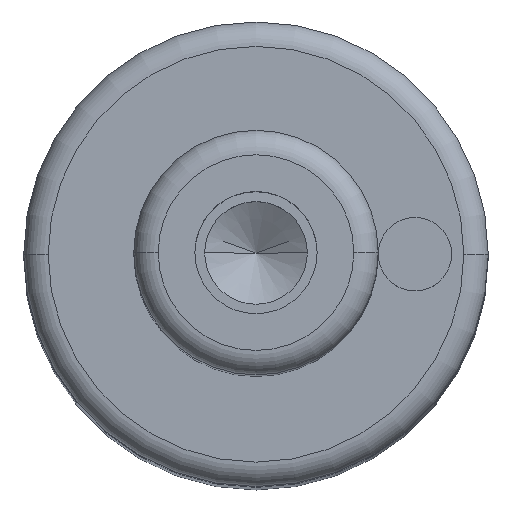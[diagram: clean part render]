
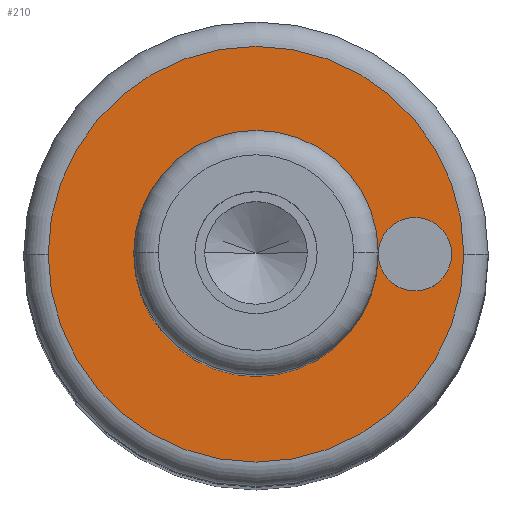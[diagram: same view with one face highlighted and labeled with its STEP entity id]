
A CAD part, top view. The second image highlights one B-rep face of the part: STEP entity #210.
In plain terms, the highlighted planar face has unit normal (0, 0, 1).
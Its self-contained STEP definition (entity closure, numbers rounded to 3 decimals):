
#99=PLANE('',#660);
#107=FACE_BOUND('',#285,.T.);
#108=FACE_BOUND('',#286,.T.);
#109=FACE_BOUND('',#287,.T.);
#210=ADVANCED_FACE('',(#107,#108,#109),#99,.T.);
#285=EDGE_LOOP('',(#395,#396));
#286=EDGE_LOOP('',(#397,#398));
#287=EDGE_LOOP('',(#399,#400));
#395=ORIENTED_EDGE('',*,*,#500,.F.);
#396=ORIENTED_EDGE('',*,*,#501,.F.);
#397=ORIENTED_EDGE('',*,*,#533,.F.);
#398=ORIENTED_EDGE('',*,*,#534,.F.);
#399=ORIENTED_EDGE('',*,*,#496,.T.);
#400=ORIENTED_EDGE('',*,*,#494,.T.);
#447=VERTEX_POINT('',#894);
#448=VERTEX_POINT('',#896);
#449=VERTEX_POINT('',#902);
#452=VERTEX_POINT('',#907);
#470=VERTEX_POINT('',#977);
#471=VERTEX_POINT('',#978);
#494=EDGE_CURVE('',#448,#447,#561,.T.);
#496=EDGE_CURVE('',#447,#448,#562,.T.);
#500=EDGE_CURVE('',#452,#449,#566,.T.);
#501=EDGE_CURVE('',#449,#452,#567,.T.);
#533=EDGE_CURVE('',#470,#471,#587,.T.);
#534=EDGE_CURVE('',#471,#470,#588,.T.);
#561=CIRCLE('',#612,5.);
#562=CIRCLE('',#614,5.);
#566=CIRCLE('',#619,8.5);
#567=CIRCLE('',#621,8.5);
#587=CIRCLE('',#658,1.5);
#588=CIRCLE('',#659,1.5);
#612=AXIS2_PLACEMENT_3D('',#895,#711,#712);
#614=AXIS2_PLACEMENT_3D('',#899,#716,#717);
#619=AXIS2_PLACEMENT_3D('',#908,#726,#727);
#621=AXIS2_PLACEMENT_3D('',#910,#730,#731);
#658=AXIS2_PLACEMENT_3D('',#976,#816,#817);
#659=AXIS2_PLACEMENT_3D('',#979,#818,#819);
#660=AXIS2_PLACEMENT_3D('',#980,#820,#821);
#711=DIRECTION('',(0.,0.,-1.));
#712=DIRECTION('',(-1.,0.,0.));
#716=DIRECTION('',(0.,0.,-1.));
#717=DIRECTION('',(-1.,0.,0.));
#726=DIRECTION('',(0.,0.,-1.));
#727=DIRECTION('',(-1.,0.,0.));
#730=DIRECTION('',(0.,0.,-1.));
#731=DIRECTION('',(-1.,0.,0.));
#816=DIRECTION('',(0.,0.,1.));
#817=DIRECTION('',(1.,0.,0.));
#818=DIRECTION('',(0.,0.,1.));
#819=DIRECTION('',(1.,0.,0.));
#820=DIRECTION('',(0.,0.,1.));
#821=DIRECTION('',(0.,-1.,0.));
#894=CARTESIAN_POINT('',(-5.,0.,82.));
#895=CARTESIAN_POINT('',(0.,0.,82.));
#896=CARTESIAN_POINT('',(5.,0.,82.));
#899=CARTESIAN_POINT('',(0.,0.,82.));
#902=CARTESIAN_POINT('',(-8.5,0.,82.));
#907=CARTESIAN_POINT('',(8.5,0.,82.));
#908=CARTESIAN_POINT('',(0.,0.,82.));
#910=CARTESIAN_POINT('',(0.,0.,82.));
#976=CARTESIAN_POINT('',(6.5,0.,82.));
#977=CARTESIAN_POINT('',(5.,0.,82.));
#978=CARTESIAN_POINT('',(8.,0.,82.));
#979=CARTESIAN_POINT('',(6.5,0.,82.));
#980=CARTESIAN_POINT('',(0.,0.,82.));
